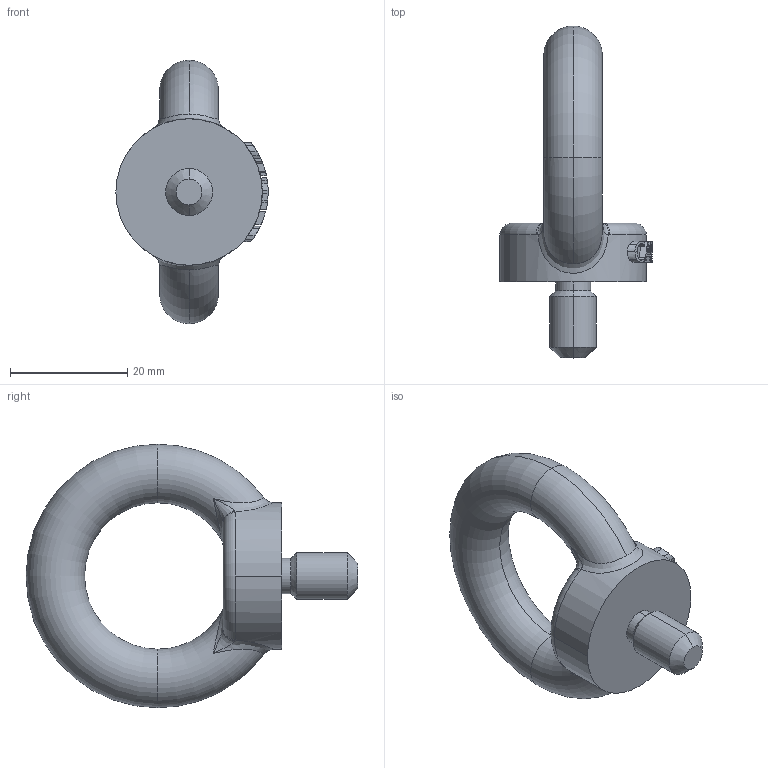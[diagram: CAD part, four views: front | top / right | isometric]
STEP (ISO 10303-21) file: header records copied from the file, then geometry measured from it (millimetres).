
FILE_DESCRIPTION(('STEP AP214'),'1');
FILE_NAME('c80308.stp','2017-03-22T15:03:32',('TraceParts'),('TraceParts S.A.'),'Spatial InterOp 3D',' ',' ');
FILE_SCHEMA(('automotive_design'));
Length unit declared in the file: millimetre
Products named in the file (1): c80308
Bounding box: 26 x 56.7 x 45 mm (x, y, z)
Volume: 12180.1 mm3; surface area: 4667.1 mm2
Topology: 1 solids, 1 shells, 131 faces, 355 edges, 228 vertices
Faces by surface type: plane 53, bspline 51, cylinder 15, torus 8, cone 4
Entity records: 6599 total; most frequent: CARTESIAN_POINT 2496, ORIENTED_EDGE 702, DIRECTION 525, EDGE_CURVE 351, VERTEX_POINT 228, AXIS2_PLACEMENT_3D 195, EDGE_LOOP 139, LINE 135
